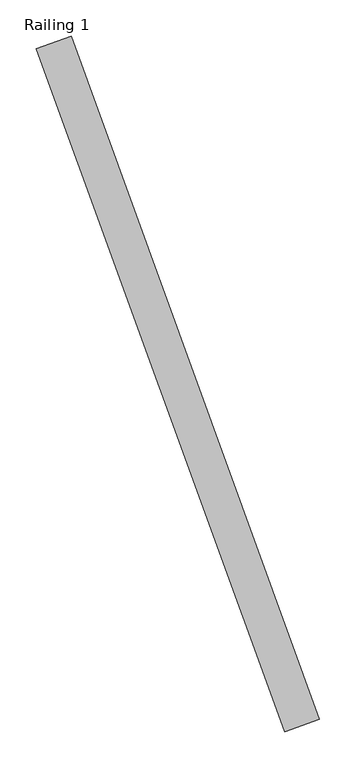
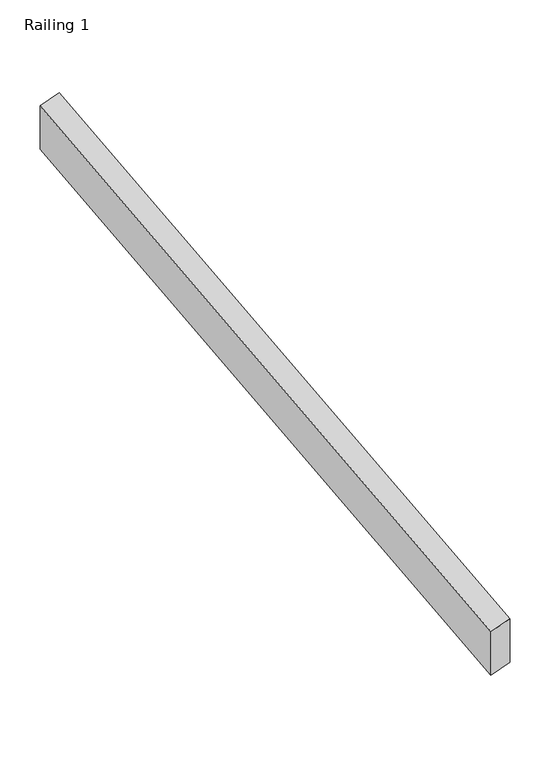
"""IFC4 building model written with IfcOpenShell, lengths in millimetres: railing geometry, Railing 1."""

from ifc_helpers import new_model, si_unit, frame, origin, place, context, project, spatial, polyline, outline, extrude, source, transform, mapped, element, save


def railing_1_e3a54f61(model_context):
    return source(origin(), model_context, "Body", "SweptSolid", [
        extrude(outline(polyline([(-48.768, -76.2), (0.0, 0.0), (1187.2657664, 0.0), (1138.4977664, -76.2), (-48.768, -76.2)])), frame((23604.7736216, 9222.6697954, 4520.0), z_axis=(0.9396926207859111, 0.34202014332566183, 0.0), x_axis=(-0.2880737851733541, 0.7914762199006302, 0.5390536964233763)), (0.0, 0.0, 1.0), 50.8),
    ])


if __name__ == "__main__":
    model = new_model("IFC4")
    model_context = context("Model", 3, world=origin())
    ifc_project = project(units=[si_unit("LENGTHUNIT", "METRE", prefix="MILLI")], contexts=[model_context])
    site = spatial("IfcSite", under=ifc_project)
    building = spatial("IfcBuilding", under=site)
    placement = place(None, origin())
    railing_1_shape = railing_1_e3a54f61(model_context)
    element("IfcRailing", 1, ObjectType="Railing 1", at=placement, inside=building, context=model_context, shape_type="MappedRepresentation", body=[
        mapped(railing_1_shape, transform((0.0, 0.0, 0.0), x_axis=(1.0, 0.0, 0.0), y_axis=(0.0, 1.0, 0.0), z_axis=(0.0, 0.0, 1.0))),
    ])
    save(model, "model.ifc")
